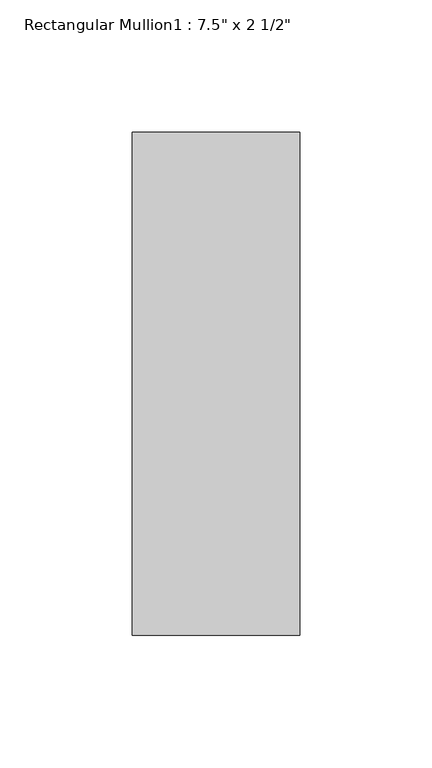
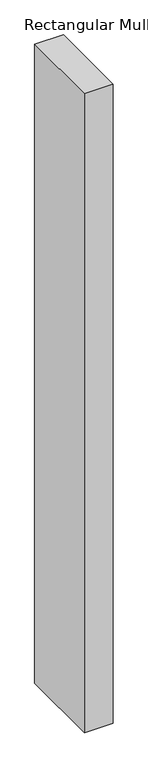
"""IFC4 building model written with IfcOpenShell, lengths in millimetres: member geometry."""

from ifc_helpers import new_model, si_unit, frame, origin, place, context, project, spatial, polyline, outline, extrude, source, transform, mapped, element, save


def member_79b6bd3a(model_context):
    return source(origin(), model_context, "Body", "SweptSolid", [
        extrude(outline(polyline([(31.75, 165.1), (31.75, -25.4), (-31.75, -25.4), (-31.75, 165.1), (31.75, 165.1)])), frame((0.0, 0.0, -1492.25), z_axis=(0.0, 0.0, 1.0), x_axis=(1.0, 0.0, 0.0)), (0.0, 0.0, 1.0), 1492.25),
    ])


if __name__ == "__main__":
    model = new_model("IFC4")
    model_context = context("Model", 3, world=origin())
    ifc_project = project(units=[si_unit("LENGTHUNIT", "METRE", prefix="MILLI")], contexts=[model_context])
    site = spatial("IfcSite", under=ifc_project)
    building = spatial("IfcBuilding", under=site)
    placement = place(None, origin())
    member_shape = member_79b6bd3a(model_context)
    element("IfcMember", 1, ObjectType="Rectangular Mullion1 : 7.5\" x 2 1/2\"", at=placement, inside=building, context=model_context, shape_type="MappedRepresentation", body=[
        mapped(member_shape, transform((0.0, 0.0, 0.0), x_axis=(1.0, 0.0, 0.0), y_axis=(0.0, 1.0, 0.0), z_axis=(0.0, 0.0, 1.0))),
    ])
    save(model, "model.ifc")
